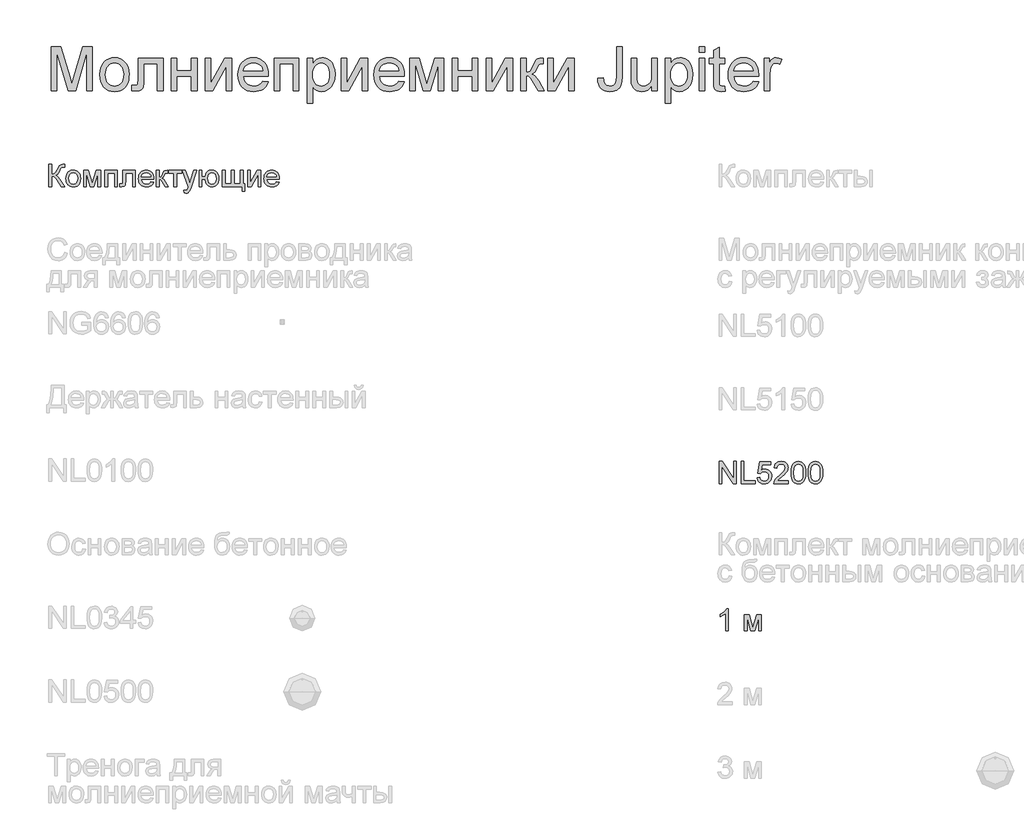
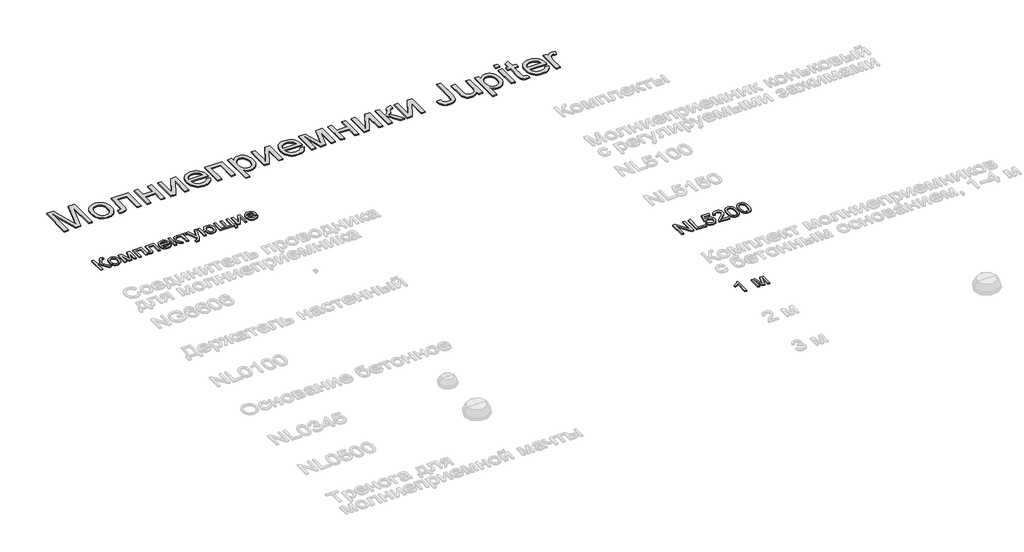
# One storey, part 61 of 124: 4 proxies.
"""IFC4 building model written with IfcOpenShell, lengths in millimetres."""

from ifc_helpers import new_model, si_unit, origin, origin_with_axes, place, context, project, spatial, polyline, outline, extrude, element, save

model = new_model("IFC4")

# Units and contexts
model_context = context("Model", 3, world=origin())
ifc_project = project(units=[si_unit("LENGTHUNIT", "METRE", prefix="MILLI")], contexts=[model_context])

# Site, building, storey
site = spatial("IfcSite", under=ifc_project)
building = spatial("IfcBuilding", under=site)
storey = spatial("IfcBuildingStorey", under=building, Name="Этаж 01", Elevation=0.0)

# Proxies
placement = place(None, origin())
element("IfcBuildingElementProxy", 1, Name="600 мм Arial", ObjectType="600 мм Arial", at=placement, inside=storey, context=model_context, shape_type="SweptSolid", body=[
    extrude(outline(polyline([(1332.7842945, -48774.498362), (1332.7842945, -48171.7605011), (1462.4259096, -48171.7605011), (1585.7399543, -48596.5906291), (1610.6087772, -48685.3237664), (1637.5377393, -48589.2329892), (1758.7916449, -48171.7605011), (1888.43326, -48171.7605011), (1888.43326, -48774.498362), (1813.0910274, -48774.498362), (1813.0910274, -48247.1027337), (1661.6707981, -48774.498362), (1559.5467563, -48774.498362), (1408.1265271, -48247.1027337), (1408.1265271, -48774.498362), (1332.7842945, -48774.498362)])), origin_with_axes(), (0.0, 0.0, 1.0), 20.0),
    extrude(outline(polyline([(1992.0288298, -48553.1805537), (1996.1031229, -48495.8553418), (2008.3260022, -48446.4579869), (2028.6974677, -48404.988489), (2057.2175194, -48371.4468481), (2085.9307091, -48350.0085248), (2117.623743, -48334.6954368), (2152.296621, -48325.5075839), (2189.9493432, -48322.4449663), (2231.5154102, -48326.1743701), (2269.0991545, -48337.3625812), (2302.7005762, -48356.0095999), (2332.3196754, -48382.1154259), (2356.494121, -48414.7971427), (2373.7615821, -48453.1718333), (2384.1220588, -48497.2394978), (2387.575551, -48547.0001362), (2386.0488408, -48587.3291999), (2381.4687099, -48623.114921), (2373.8351585, -48654.3572994), (2363.1481866, -48681.0563352), (2349.5411513, -48704.1179378), (2333.1474098, -48724.4480166), (2313.9669623, -48742.0465715), (2291.9998087, -48756.9136026), (2268.1012746, -48768.7272132), (2243.1266856, -48777.1655065), (2217.0760418, -48782.2284824), (2189.9493432, -48783.9161411), (2147.776271, -48780.2005329), (2109.8430388, -48769.0537085), (2076.1496465, -48750.4756677), (2046.6960943, -48724.4664107), (2022.7791661, -48691.4673957), (2005.6956459, -48651.9200812), (1995.4455338, -48605.8244672), (1992.0288298, -48553.1805537)]), holes=[polyline([(2067.3710624, -48553.0334009), (2069.5507633, -48589.5778786), (2076.0898657, -48621.2203287), (2086.9883698, -48647.9607512), (2102.2462756, -48669.7991462), (2120.8059222, -48686.7631047), (2141.6096491, -48698.8802179), (2164.6574561, -48706.1504858), (2189.9493432, -48708.5739085), (2215.1124717, -48706.1366902), (2238.0683082, -48698.8250356), (2258.8168527, -48686.6389445), (2277.3581053, -48669.578417), (2292.616011, -48647.5238914), (2303.5145151, -48620.355806), (2310.0536176, -48588.0741609), (2312.2333184, -48550.6789561), (2310.039822, -48515.2933067), (2303.4593328, -48484.4785911), (2292.4918509, -48458.2348093), (2277.1373761, -48436.5619612), (2258.5271456, -48419.5980027), (2237.7923967, -48407.4808895), (2214.9331292, -48400.2106216), (2189.9493432, -48397.7871989), (2164.6574561, -48400.2014245), (2141.6096491, -48407.4441013), (2120.8059222, -48419.5152293), (2102.2462756, -48436.4148084), (2086.9883698, -48458.188824), (2076.0898657, -48484.8832613), (2069.5507633, -48516.4981203), (2067.3710624, -48553.0334009)])]), origin_with_axes(), (0.0, 0.0, 1.0), 20.0),
    extrude(outline(polyline([(2510.006679, -48331.8627454), (2849.0467258, -48331.8627454), (2849.0467258, -48774.0569036), (2773.7044932, -48774.0569036), (2773.7044932, -48407.204978), (2585.3489116, -48407.204978), (2585.3489116, -48618.3692432), (2584.0797188, -48679.6583836), (2580.2721401, -48715.7843956), (2570.7623905, -48737.8389212), (2552.3866849, -48756.9136026), (2524.5012296, -48770.1021722), (2486.4622313, -48774.498362), (2425.2466673, -48770.6723893), (2425.2466673, -48699.1561294), (2458.9446581, -48699.1561294), (2479.3805029, -48697.9973011), (2493.0105309, -48694.5208163), (2501.526999, -48688.5243397), (2506.6221647, -48679.8055364), (2510.006679, -48614.1018121), (2510.006679, -48331.8627454)])), origin_with_axes(), (0.0, 0.0, 1.0), 20.0),
    extrude(outline(polyline([(2962.0600747, -48331.8627454), (3037.4023073, -48331.8627454), (3037.4023073, -48501.3827688), (3235.1756679, -48501.3827688), (3235.1756679, -48331.8627454), (3310.5179005, -48331.8627454), (3310.5179005, -48774.498362), (3235.1756679, -48774.498362), (3235.1756679, -48576.7250014), (3037.4023073, -48576.7250014), (3037.4023073, -48774.498362), (2962.0600747, -48774.498362), (2962.0600747, -48331.8627454)])), origin_with_axes(), (0.0, 0.0, 1.0), 20.0),
    extrude(outline(polyline([(3423.5312495, -48331.8627454), (3498.8734821, -48331.8627454), (3498.8734821, -48669.4312642), (3683.991702, -48331.8627454), (3781.4068544, -48331.8627454), (3781.4068544, -48774.498362), (3706.0646217, -48774.498362), (3706.0646217, -48438.9899824), (3522.1236242, -48774.498362), (3423.5312495, -48774.498362), (3423.5312495, -48331.8627454)])), origin_with_axes(), (0.0, 0.0, 1.0), 20.0),
    extrude(outline(polyline([(4204.323996, -48642.6494549), (4278.1947006, -48652.067234), (4266.8685337, -48681.6541435), (4251.5784383, -48707.7277799), (4232.3244144, -48730.2881432), (4209.106462, -48749.3352335), (4182.1637043, -48764.4643806), (4151.7352648, -48775.2709142), (4117.8211434, -48781.7548344), (4080.42134, -48783.9161411), (4033.6727355, -48780.1867374), (3992.0192966, -48768.9985262), (3955.4610233, -48750.3515075), (3923.9979157, -48724.2456815), (3898.6968315, -48691.4076149), (3880.6246285, -48652.5638747), (3869.7813066, -48607.714461), (3866.166866, -48556.8593737), (3869.8180948, -48504.2798395), (3880.7717813, -48457.9359052), (3899.0279253, -48417.8275706), (3924.5865269, -48383.9548359), (3955.9668611, -48357.044268), (3991.6882028, -48337.8224337), (4031.7505521, -48326.2893332), (4076.1539089, -48322.4449663), (4119.1271245, -48326.2801361), (4157.9892587, -48337.7856455), (4192.7403117, -48356.9614945), (4223.3802834, -48383.8076831), (4248.3916605, -48417.6068414), (4266.2569299, -48457.6415996), (4276.9760915, -48503.9119575), (4280.5491454, -48556.4179153), (4280.107687, -48576.7250014), (3941.5090987, -48576.7250014), (3945.8730988, -48606.7901575), (3954.5505154, -48633.1213113), (3967.5413483, -48655.7184628), (3984.8455977, -48674.5816121), (4005.5067702, -48689.4532418), (4028.5683728, -48700.0758344), (4054.0304054, -48706.4493899), (4081.892868, -48708.5739085), (4121.9920055, -48704.6375711), (4155.7635727, -48692.8285591), (4183.2075695, -48672.4111083), (4204.323996, -48642.6494549)]), holes=[polyline([(3941.5090987, -48501.3827688), (4205.2069128, -48501.3827688), (4195.0165815, -48461.5779369), (4186.251793, -48445.924558), (4175.0405892, -48433.1038705), (4154.4943798, -48417.6528267), (4131.115479, -48406.6163668), (4104.9038868, -48399.9944909), (4075.8596033, -48397.7871989), (4049.3675011, -48399.548434), (4025.0734939, -48404.8321391), (4002.9775815, -48413.6383144), (3983.0797641, -48425.9669598), (3966.3825201, -48441.2478581), (3953.8883278, -48458.9107924), (3945.5971873, -48478.9557627), (3941.5090987, -48501.3827688)])]), origin_with_axes(), (0.0, 0.0, 1.0), 20.0),
    extrude(outline(polyline([(4355.891378, -48331.8627454), (4694.9314248, -48331.8627454), (4694.9314248, -48774.498362), (4619.5891922, -48774.498362), (4619.5891922, -48407.204978), (4431.2336106, -48407.204978), (4431.2336106, -48774.498362), (4355.891378, -48774.498362), (4355.891378, -48331.8627454)])), origin_with_axes(), (0.0, 0.0, 1.0), 20.0),
    extrude(outline(polyline([(4807.9447737, -48944.0183854), (4807.9447737, -48331.8627454), (4883.2870063, -48331.8627454), (4883.2870063, -48405.73345), (4907.8615236, -48369.2947384), (4935.3790968, -48343.2670873), (4967.4584068, -48327.6504966), (5005.7181343, -48322.4449663), (5031.9941058, -48324.2659822), (5056.6697906, -48329.7290298), (5079.7451888, -48338.8341092), (5101.2203003, -48351.5812203), (5120.6260755, -48367.6392694), (5137.493465, -48386.6771627), (5151.8224687, -48408.6949001), (5163.6130866, -48433.6924817), (5179.3952242, -48489.2058747), (5184.6559368, -48549.7960393), (5178.7146425, -48614.2305708), (5171.2880248, -48643.8956552), (5160.8907599, -48671.8592853), (5147.6654021, -48697.3902958), (5131.7545059, -48719.7575211), (5113.158071, -48738.9609613), (5091.8760976, -48755.0006163), (5068.9524508, -48767.6511584), (5045.4309957, -48776.6872599), (5021.3117324, -48782.1089208), (4996.5946608, -48783.9161411), (4961.958571, -48779.0784928), (4931.0380893, -48764.5655481), (4904.5689797, -48742.6581753), (4883.2870063, -48715.6372428), (4883.2870063, -48944.0183854), (4807.9447737, -48944.0183854)]), holes=[polyline([(4883.2870063, -48556.7122209), (4885.3241529, -48593.0221738), (4891.4355925, -48624.2553552), (4901.6213252, -48650.411765), (4915.8813511, -48671.4914034), (4933.0476447, -48687.7149993), (4951.9521807, -48699.3032822), (4972.5949592, -48706.2562519), (4994.97598, -48708.5739085), (5017.6788977, -48706.1734784), (5038.6987552, -48698.9721884), (5058.0355525, -48686.9700383), (5075.6892898, -48670.1670282), (5090.3999711, -48648.3240347), (5100.9076006, -48621.2019346), (5107.2121783, -48588.8007279), (5109.3137041, -48551.1204145), (5107.262762, -48515.1231613), (5101.1099357, -48483.9451622), (5090.855225, -48457.5864173), (5076.4986302, -48436.0469264), (5059.2909499, -48419.3082957), (5040.4829829, -48407.3521308), (5020.0747292, -48400.1784319), (4998.0661888, -48397.7871989), (4976.1266263, -48400.3301832), (4955.4838479, -48407.9591361), (4936.1378534, -48420.6740576), (4918.0886431, -48438.4749476), (4902.862927, -48461.1226829), (4891.9874155, -48488.3781403), (4885.4621086, -48520.2413196), (4883.2870063, -48556.7122209)])]), origin_with_axes(), (0.0, 0.0, 1.0), 20.0),
    extrude(outline(polyline([(5269.4159484, -48331.8627454), (5344.7581811, -48331.8627454), (5344.7581811, -48669.4312642), (5529.876401, -48331.8627454), (5627.2915534, -48331.8627454), (5627.2915534, -48774.498362), (5551.9493207, -48774.498362), (5551.9493207, -48438.9899824), (5368.0083232, -48774.498362), (5269.4159484, -48774.498362), (5269.4159484, -48331.8627454)])), origin_with_axes(), (0.0, 0.0, 1.0), 20.0),
    extrude(outline(polyline([(6050.208695, -48642.6494549), (6124.0793996, -48652.067234), (6112.7532327, -48681.6541435), (6097.4631373, -48707.7277799), (6078.2091134, -48730.2881432), (6054.9911609, -48749.3352335), (6028.0484033, -48764.4643806), (5997.6199638, -48775.2709142), (5963.7058424, -48781.7548344), (5926.306039, -48783.9161411), (5879.5574345, -48780.1867374), (5837.9039956, -48768.9985262), (5801.3457223, -48750.3515075), (5769.8826147, -48724.2456815), (5744.5815305, -48691.4076149), (5726.5093275, -48652.5638747), (5715.6660056, -48607.714461), (5712.051565, -48556.8593737), (5715.7027938, -48504.2798395), (5726.6564803, -48457.9359052), (5744.9126243, -48417.8275706), (5770.4712259, -48383.9548359), (5801.8515601, -48357.044268), (5837.5729018, -48337.8224337), (5877.6352511, -48326.2893332), (5922.0386079, -48322.4449663), (5965.0118235, -48326.2801361), (6003.8739577, -48337.7856455), (6038.6250107, -48356.9614945), (6069.2649824, -48383.8076831), (6094.2763595, -48417.6068414), (6112.1416289, -48457.6415996), (6122.8607905, -48503.9119575), (6126.4338444, -48556.4179153), (6125.992386, -48576.7250014), (5787.3937977, -48576.7250014), (5791.7577978, -48606.7901575), (5800.4352144, -48633.1213113), (5813.4260473, -48655.7184628), (5830.7302967, -48674.5816121), (5851.3914692, -48689.4532418), (5874.4530718, -48700.0758344), (5899.9151044, -48706.4493899), (5927.777567, -48708.5739085), (5967.8767045, -48704.6375711), (6001.6482716, -48692.8285591), (6029.0922685, -48672.4111083), (6050.208695, -48642.6494549)]), holes=[polyline([(5787.3937977, -48501.3827688), (6051.0916118, -48501.3827688), (6040.9012805, -48461.5779369), (6032.136492, -48445.924558), (6020.9252882, -48433.1038705), (6000.3790788, -48417.6528267), (5977.000178, -48406.6163668), (5950.7885858, -48399.9944909), (5921.7443023, -48397.7871989), (5895.2522001, -48399.548434), (5870.9581929, -48404.8321391), (5848.8622805, -48413.6383144), (5828.9644631, -48425.9669598), (5812.2672191, -48441.2478581), (5799.7730268, -48458.9107924), (5791.4818863, -48478.9557627), (5787.3937977, -48501.3827688)])]), origin_with_axes(), (0.0, 0.0, 1.0), 20.0),
    extrude(outline(polyline([(6201.776077, -48331.8627454), (6331.4176921, -48331.8627454), (6431.334442, -48686.2066832), (6539.0502902, -48331.8627454), (6663.2472518, -48331.8627454), (6663.2472518, -48774.498362), (6587.9050192, -48774.498362), (6587.9050192, -48418.0942851), (6479.6005598, -48774.498362), (6380.7138795, -48774.498362), (6277.1183096, -48401.0245605), (6277.1183096, -48774.498362), (6201.776077, -48774.498362), (6201.776077, -48331.8627454)])), origin_with_axes(), (0.0, 0.0, 1.0), 20.0),
    extrude(outline(polyline([(6776.2606007, -48331.8627454), (6851.6028333, -48331.8627454), (6851.6028333, -48501.3827688), (7049.3761939, -48501.3827688), (7049.3761939, -48331.8627454), (7124.7184265, -48331.8627454), (7124.7184265, -48774.498362), (7049.3761939, -48774.498362), (7049.3761939, -48576.7250014), (6851.6028333, -48576.7250014), (6851.6028333, -48774.498362), (6776.2606007, -48774.498362), (6776.2606007, -48331.8627454)])), origin_with_axes(), (0.0, 0.0, 1.0), 20.0),
    extrude(outline(polyline([(7237.7317754, -48331.8627454), (7313.0740081, -48331.8627454), (7313.0740081, -48669.4312642), (7498.192228, -48331.8627454), (7595.6073804, -48331.8627454), (7595.6073804, -48774.498362), (7520.2651477, -48774.498362), (7520.2651477, -48438.9899824), (7336.3241502, -48774.498362), (7237.7317754, -48774.498362), (7237.7317754, -48331.8627454)])), origin_with_axes(), (0.0, 0.0, 1.0), 20.0),
    extrude(outline(polyline([(7708.6207293, -48331.8627454), (7783.9629619, -48331.8627454), (7783.9629619, -48520.2183269), (7814.6075321, -48516.8338126), (7834.4363716, -48506.6802695), (7851.9843428, -48480.1927659), (7875.7863079, -48427.8063697), (7894.9713539, -48384.9665114), (7910.1464862, -48359.7482006), (7924.309943, -48346.0078081), (7940.4599626, -48337.6017045), (7962.8087938, -48333.2974852), (7995.5686855, -48331.8627454), (8009.9896597, -48331.8627454), (8009.9896597, -48407.6464364), (7989.6825736, -48407.204978), (7966.1381259, -48409.1915408), (7952.8943741, -48415.1512291), (7942.1522198, -48431.7427071), (7926.9954816, -48464.7417221), (7911.0845853, -48497.7959193), (7896.6084288, -48518.378917), (7879.0788517, -48532.1193095), (7854.0076938, -48544.6456914), (7877.8832353, -48555.2498899), (7901.5380475, -48573.9658864), (7924.9721306, -48600.7936809), (7948.1854845, -48635.7332734), (8028.8252179, -48774.498362), (7943.1822894, -48774.498362), (7864.1612368, -48638.6763294), (7842.8240811, -48602.5319234), (7824.4299814, -48581.2131617), (7805.8519406, -48570.7837072), (7783.9629619, -48567.3072223), (7783.9629619, -48774.498362), (7708.6207293, -48774.498362), (7708.6207293, -48331.8627454)])), origin_with_axes(), (0.0, 0.0, 1.0), 20.0),
    extrude(outline(polyline([(8075.9141133, -48331.8627454), (8151.2563459, -48331.8627454), (8151.2563459, -48669.4312642), (8336.3745658, -48331.8627454), (8433.7897182, -48331.8627454), (8433.7897182, -48774.498362), (8358.4474855, -48774.498362), (8358.4474855, -48438.9899824), (8174.506488, -48774.498362), (8075.9141133, -48774.498362), (8075.9141133, -48331.8627454)])), origin_with_axes(), (0.0, 0.0, 1.0), 20.0),
    extrude(outline(polyline([(8753.9942068, -48605.2726442), (8829.3364394, -48595.5605595), (8831.9943868, -48625.515351), (8837.1723259, -48650.3381886), (8844.8702566, -48670.0290724), (8855.088179, -48684.5880024), (8867.6697433, -48695.0818363), (8882.4585995, -48702.5774319), (8899.4547477, -48707.0747893), (8918.6581878, -48708.5739085), (8946.4884607, -48705.171), (8970.2352435, -48694.9622746), (8988.5557669, -48678.8858315), (9000.1072615, -48657.8797695), (9006.2324968, -48627.4743226), (9008.2742418, -48583.1997245), (9008.2742418, -48171.7605011), (9083.6164744, -48171.7605011), (9083.6164744, -48581.8753493), (9079.0731318, -48648.9586311), (9073.3939535, -48676.0853298), (9065.4431039, -48698.9354002), (9055.0228464, -48718.4193504), (9041.9354444, -48735.4476882), (9026.1808979, -48750.0204137), (9007.759207, -48762.137527), (8964.8457723, -48778.4714875), (8915.1265207, -48783.9161411), (8877.9980303, -48781.1064423), (8845.486459, -48772.6773461), (8817.5918067, -48758.6288524), (8794.3140734, -48738.9609613), (8776.0671265, -48713.747249), (8763.264833, -48683.0612921), (8755.9071931, -48646.9030905), (8753.9942068, -48605.2726442)])), origin_with_axes(), (0.0, 0.0, 1.0), 20.0),
    extrude(outline(polyline([(9488.5809747, -48774.498362), (9488.5809747, -48698.4203654), (9461.3209189, -48735.8247673), (9429.5727027, -48762.5421972), (9393.3363262, -48778.5726551), (9352.6117893, -48783.9161411), (9315.9155603, -48780.1637447), (9281.757717, -48768.9065557), (9253.0997096, -48751.9839839), (9232.9029881, -48731.2354394), (9219.3097484, -48706.0355227), (9210.4621864, -48675.7588345), (9206.0476024, -48605.7141026), (9206.0476024, -48331.8627454), (9281.389835, -48331.8627454), (9281.389835, -48570.2502783), (9282.5302692, -48617.9277849), (9285.9515718, -48647.0640389), (9296.9328493, -48672.6870198), (9315.7500134, -48692.1663715), (9341.1522652, -48704.4720242), (9371.8888059, -48708.5739085), (9404.3911801, -48704.3800537), (9434.796627, -48691.7984895), (9459.867785, -48671.988044), (9476.3672925, -48646.1075457), (9485.5275542, -48610.6621154), (9488.5809747, -48562.1568744), (9488.5809747, -48331.8627454), (9563.9232073, -48331.8627454), (9563.9232073, -48774.498362), (9488.5809747, -48774.498362)])), origin_with_axes(), (0.0, 0.0, 1.0), 20.0),
    extrude(outline(polyline([(9667.5187772, -48944.0183854), (9667.5187772, -48331.8627454), (9742.8610098, -48331.8627454), (9742.8610098, -48405.73345), (9767.4355271, -48369.2947384), (9794.9531003, -48343.2670873), (9827.0324103, -48327.6504966), (9865.2921378, -48322.4449663), (9891.5681093, -48324.2659822), (9916.2437941, -48329.7290298), (9939.3191923, -48338.8341092), (9960.7943037, -48351.5812203), (9980.200079, -48367.6392694), (9997.0674685, -48386.6771627), (10011.3964722, -48408.6949001), (10023.1870901, -48433.6924817), (10038.9692277, -48489.2058747), (10044.2299402, -48549.7960393), (10038.288646, -48614.2305708), (10030.8620282, -48643.8956552), (10020.4647634, -48671.8592853), (10007.2394056, -48697.3902958), (9991.3285093, -48719.7575211), (9972.7320745, -48738.9609613), (9951.4501011, -48755.0006163), (9928.5264542, -48767.6511584), (9905.0049992, -48776.6872599), (9880.8857359, -48782.1089208), (9856.1686643, -48783.9161411), (9821.5325745, -48779.0784928), (9790.6120928, -48764.5655481), (9764.1429832, -48742.6581753), (9742.8610098, -48715.6372428), (9742.8610098, -48944.0183854), (9667.5187772, -48944.0183854)]), holes=[polyline([(9742.8610098, -48556.7122209), (9744.8981563, -48593.0221738), (9751.009596, -48624.2553552), (9761.1953287, -48650.411765), (9775.4553546, -48671.4914034), (9792.6216482, -48687.7149993), (9811.5261842, -48699.3032822), (9832.1689627, -48706.2562519), (9854.5499835, -48708.5739085), (9877.2529012, -48706.1734784), (9898.2727587, -48698.9721884), (9917.609556, -48686.9700383), (9935.2632933, -48670.1670282), (9949.9739746, -48648.3240347), (9960.481604, -48621.2019346), (9966.7861817, -48588.8007279), (9968.8877076, -48551.1204145), (9966.8367655, -48515.1231613), (9960.6839391, -48483.9451622), (9950.4292285, -48457.5864173), (9936.0726337, -48436.0469264), (9918.8649533, -48419.3082957), (9900.0569863, -48407.3521308), (9879.6487327, -48400.1784319), (9857.6401923, -48397.7871989), (9835.7006298, -48400.3301832), (9815.0578514, -48407.9591361), (9795.7118569, -48420.6740576), (9777.6626465, -48438.4749476), (9762.4369305, -48461.1226829), (9751.561419, -48488.3781403), (9745.0361121, -48520.2413196), (9742.8610098, -48556.7122209)])]), origin_with_axes(), (0.0, 0.0, 1.0), 20.0),
    extrude(outline(polyline([(10128.9899519, -48247.1027337), (10128.9899519, -48171.7605011), (10204.3321845, -48171.7605011), (10204.3321845, -48247.1027337), (10128.9899519, -48247.1027337)])), origin_with_axes(), (0.0, 0.0, 1.0), 20.0),
    extrude(outline(polyline([(10128.9899519, -48774.498362), (10128.9899519, -48331.8627454), (10204.3321845, -48331.8627454), (10204.3321845, -48774.498362), (10128.9899519, -48774.498362)])), origin_with_axes(), (0.0, 0.0, 1.0), 20.0),
    extrude(outline(polyline([(10477.4477778, -48711.6641172), (10486.8655568, -48776.705654), (10430.5060352, -48783.9161411), (10394.3432351, -48780.7891441), (10367.3774848, -48771.4081532), (10348.3211975, -48756.9503908), (10335.886786, -48738.5930793), (10329.0441809, -48707.0655923), (10326.7633125, -48653.0973036), (10326.7633125, -48407.204978), (10270.2566381, -48407.204978), (10270.2566381, -48331.8627454), (10326.7633125, -48331.8627454), (10326.7633125, -48224.29405), (10402.1055452, -48180.0010578), (10402.1055452, -48331.8627454), (10477.4477778, -48331.8627454), (10477.4477778, -48407.204978), (10402.1055452, -48407.204978), (10402.1055452, -48650.8900116), (10406.0786707, -48689.7383503), (10418.9545405, -48703.4971369), (10429.8254535, -48707.3047156), (10444.6327038, -48708.5739085), (10477.4477778, -48711.6641172)])), origin_with_axes(), (0.0, 0.0, 1.0), 20.0),
    extrude(outline(polyline([(10862.6938031, -48642.6494549), (10936.5645077, -48652.067234), (10925.2383408, -48681.6541435), (10909.9482454, -48707.7277799), (10890.6942215, -48730.2881432), (10867.4762691, -48749.3352335), (10840.5335114, -48764.4643806), (10810.1050719, -48775.2709142), (10776.1909505, -48781.7548344), (10738.7911471, -48783.9161411), (10692.0425426, -48780.1867374), (10650.3891037, -48768.9985262), (10613.8308304, -48750.3515075), (10582.3677228, -48724.2456815), (10557.0666386, -48691.4076149), (10538.9944356, -48652.5638747), (10528.1511138, -48607.714461), (10524.5366732, -48556.8593737), (10528.187902, -48504.2798395), (10539.1415884, -48457.9359052), (10557.3977324, -48417.8275706), (10582.956334, -48383.9548359), (10614.3366682, -48357.044268), (10650.0580099, -48337.8224337), (10690.1203592, -48326.2893332), (10734.523716, -48322.4449663), (10777.4969316, -48326.2801361), (10816.3590658, -48337.7856455), (10851.1101188, -48356.9614945), (10881.7500905, -48383.8076831), (10906.7614676, -48417.6068414), (10924.626737, -48457.6415996), (10935.3458986, -48503.9119575), (10938.9189525, -48556.4179153), (10938.4774941, -48576.7250014), (10599.8789058, -48576.7250014), (10604.2429059, -48606.7901575), (10612.9203225, -48633.1213113), (10625.9111554, -48655.7184628), (10643.2154048, -48674.5816121), (10663.8765773, -48689.4532418), (10686.9381799, -48700.0758344), (10712.4002125, -48706.4493899), (10740.2626751, -48708.5739085), (10780.3618126, -48704.6375711), (10814.1333798, -48692.8285591), (10841.5773766, -48672.4111083), (10862.6938031, -48642.6494549)]), holes=[polyline([(10599.8789058, -48501.3827688), (10863.5767199, -48501.3827688), (10853.3863886, -48461.5779369), (10844.6216001, -48445.924558), (10833.4103963, -48433.1038705), (10812.8641869, -48417.6528267), (10789.4852861, -48406.6163668), (10763.2736939, -48399.9944909), (10734.2294104, -48397.7871989), (10707.7373082, -48399.548434), (10683.443301, -48404.8321391), (10661.3473886, -48413.6383144), (10641.4495712, -48425.9669598), (10624.7523272, -48441.2478581), (10612.2581349, -48458.9107924), (10603.9669944, -48478.9557627), (10599.8789058, -48501.3827688)])]), origin_with_axes(), (0.0, 0.0, 1.0), 20.0),
    extrude(outline(polyline([(11014.2611851, -48774.498362), (11014.2611851, -48331.8627454), (11080.1856387, -48331.8627454), (11080.1856387, -48397.3457405), (11104.5394267, -48359.3803186), (11126.9802285, -48337.0130933), (11149.4946066, -48326.0869981), (11174.0691238, -48322.4449663), (11211.5930873, -48328.2575019), (11249.705662, -48345.6951084), (11224.5425336, -48413.2382427), (11198.0550299, -48401.6499599), (11171.5675263, -48397.7871989), (11149.0715423, -48401.5028071), (11128.9667912, -48412.6496315), (11112.7248011, -48430.3815437), (11101.8171, -48453.852415), (11092.6568383, -48495.9381153), (11089.6034177, -48541.8497883), (11089.6034177, -48774.498362), (11014.2611851, -48774.498362)])), origin_with_axes(), (0.0, 0.0, 1.0), 20.0),
])
element("IfcBuildingElementProxy", 2, Name="300", ObjectType="300", at=placement, inside=storey, context=model_context, shape_type="SweptSolid", body=[
    extrude(outline(polyline([(1299.8220677, -49773.1294316), (1337.493184, -49773.1294316), (1337.493184, -49904.9783386), (1362.9966033, -49902.4859381), (1379.6156724, -49895.0087366), (1393.0525623, -49877.4147801), (1409.0094439, -49844.572115), (1429.7947766, -49802.4496266), (1439.819561, -49791.0360877), (1453.3392243, -49781.5907174), (1469.3880763, -49775.244753), (1487.0004268, -49773.1294316), (1511.7220969, -49773.5708899), (1511.7220969, -49811.2420063), (1503.4079638, -49811.0212771), (1495.0938307, -49810.8005479), (1477.8401652, -49813.0630221), (1465.6632711, -49819.8504449), (1455.1786343, -49834.1058723), (1443.2960458, -49858.6252072), (1428.7187218, -49889.1594128), (1416.6246012, -49905.8612554), (1390.6153441, -49921.459452), (1405.2064637, -49927.6674607), (1419.6964158, -49938.4923884), (1448.3728173, -49973.9930009), (1511.7220969, -50074.498362), (1468.0177159, -50074.498362), (1414.4540974, -49989.5911975), (1393.7699322, -49962.3587328), (1376.7461929, -49945.2614171), (1359.3361775, -49936.2391112), (1337.493184, -49933.2316759), (1337.493184, -50074.498362), (1299.8220677, -50074.498362), (1299.8220677, -49773.1294316)])), origin_with_axes(), (0.0, 0.0, 1.0), 20.0),
    extrude(outline(polyline([(1530.5576551, -49963.8394579), (1532.5948016, -49935.1768519), (1538.7062413, -49910.4781745), (1548.891974, -49889.7434255), (1563.1519998, -49872.972605), (1577.5085947, -49862.2534434), (1593.3551116, -49854.5968994), (1610.6915507, -49850.002973), (1629.5179118, -49848.4716642), (1650.3009452, -49850.336366), (1669.0928174, -49855.9304716), (1685.8935283, -49865.2539809), (1700.7030778, -49878.306894), (1712.7903006, -49894.6477523), (1721.4240312, -49913.8350977), (1726.6042696, -49935.8689299), (1728.3310157, -49960.7492491), (1725.2775951, -49998.8066415), (1716.1173334, -50027.7773486), (1701.1169451, -50049.4731893), (1680.5431445, -50065.7059823), (1656.106583, -50075.8319342), (1629.5179118, -50079.2072515), (1608.4313757, -50077.3494475), (1589.4647595, -50071.7760352), (1572.6180634, -50062.4870149), (1557.8912873, -50049.4823863), (1545.9328232, -50032.9828788), (1537.3910631, -50013.2092216), (1532.2660071, -49990.1614146), (1530.5576551, -49963.8394579)]), holes=[polyline([(1568.2287714, -49963.7658815), (1572.588173, -49997.8593454), (1585.6663779, -50022.1487541), (1605.3480647, -50036.6892899), (1629.5179118, -50041.5361352), (1653.5773943, -50036.6616988), (1673.2222928, -50022.0383895), (1686.3004977, -49997.427084), (1690.6598994, -49962.5886591), (1686.2729066, -49929.4884766), (1673.1119282, -49905.5301616), (1653.4394385, -49890.9896258), (1629.5179118, -49886.1427805), (1605.3480647, -49890.9712317), (1585.6663779, -49905.4565852), (1572.588173, -49929.6908117), (1568.2287714, -49963.7658815)])]), origin_with_axes(), (0.0, 0.0, 1.0), 20.0),
    extrude(outline(polyline([(1770.7110215, -49853.1805537), (1835.5318291, -49853.1805537), (1885.490204, -50030.3525226), (1939.3481281, -49853.1805537), (2001.4466089, -49853.1805537), (2001.4466089, -50074.498362), (1963.7754926, -50074.498362), (1963.7754926, -49896.2963235), (1909.6232629, -50074.498362), (1860.1799227, -50074.498362), (1808.3821378, -49887.7614613), (1808.3821378, -50074.498362), (1770.7110215, -50074.498362), (1770.7110215, -49853.1805537)])), origin_with_axes(), (0.0, 0.0, 1.0), 20.0),
    extrude(outline(polyline([(2057.9532834, -49853.1805537), (2227.4733067, -49853.1805537), (2227.4733067, -50074.498362), (2189.8021904, -50074.498362), (2189.8021904, -49890.85167), (2095.6243997, -49890.85167), (2095.6243997, -50074.498362), (2057.9532834, -50074.498362), (2057.9532834, -49853.1805537)])), origin_with_axes(), (0.0, 0.0, 1.0), 20.0),
    extrude(outline(polyline([(2302.8155393, -49853.1805537), (2472.3355627, -49853.1805537), (2472.3355627, -50074.2776328), (2434.6644464, -50074.2776328), (2434.6644464, -49890.85167), (2340.4866556, -49890.85167), (2340.4866556, -49996.4338026), (2337.9482699, -50045.1413788), (2333.1933951, -50056.1686416), (2324.0055423, -50065.7059823), (2310.0628146, -50072.3002671), (2291.0433155, -50074.498362), (2260.4355335, -50072.5853756), (2260.4355335, -50036.8272457), (2277.2845289, -50036.8272457), (2294.3174653, -50034.5095891), (2301.1232822, -50027.1519492), (2302.8155393, -49994.3000871), (2302.8155393, -49853.1805537)])), origin_with_axes(), (0.0, 0.0, 1.0), 20.0),
    extrude(outline(polyline([(2683.7941335, -50008.5739085), (2720.7294859, -50013.282798), (2707.4213547, -50041.1130709), (2686.1853665, -50061.9167978), (2657.4997679, -50074.8846381), (2621.8428056, -50079.2072515), (2598.4685033, -50077.3425497), (2577.6417838, -50071.7484441), (2559.3626472, -50062.4249348), (2543.6310934, -50049.3720217), (2530.9805513, -50032.9529884), (2521.9444498, -50013.5311184), (2516.5227889, -49991.1064115), (2514.7155686, -49965.6788678), (2516.541183, -49939.3891007), (2522.0180262, -49916.2171336), (2531.1460982, -49896.1629663), (2543.925399, -49879.226599), (2559.6155661, -49865.771315), (2577.4762369, -49856.1603979), (2597.5074116, -49850.3938476), (2619.70909, -49848.4716642), (2641.1956978, -49850.3892491), (2660.6267649, -49856.1420038), (2678.0022914, -49865.7299283), (2693.3222772, -49879.1530226), (2705.8279658, -49896.0526017), (2714.7606005, -49916.0699808), (2720.1201813, -49939.2051598), (2721.9067082, -49965.4581386), (2721.6859791, -49975.6116817), (2552.3866849, -49975.6116817), (2558.9073932, -50003.8098366), (2574.0549344, -50024.5399871), (2595.916322, -50037.2870982), (2622.5785696, -50041.5361352), (2642.6281383, -50039.5679666), (2659.5139219, -50033.6634605), (2673.2359203, -50023.4547352), (2683.7941335, -50008.5739085)]), holes=[polyline([(2552.3866849, -49937.9405654), (2684.2355919, -49937.9405654), (2679.1404263, -49918.0381495), (2669.1524301, -49903.8011162), (2647.189875, -49890.5573644), (2619.5619372, -49886.1427805), (2594.1688825, -49889.6652506), (2573.1720176, -49900.2326609), (2558.5762994, -49916.7045772), (2552.3866849, -49937.9405654)])]), origin_with_axes(), (0.0, 0.0, 1.0), 20.0),
    extrude(outline(polyline([(2759.5778246, -49853.1805537), (2797.2489409, -49853.1805537), (2797.2489409, -49947.3583445), (2812.571226, -49945.6660873), (2822.4856457, -49940.5893158), (2831.2596313, -49927.3455639), (2843.1606139, -49901.1523659), (2860.340703, -49867.1232813), (2875.4974412, -49856.0500333), (2903.0518027, -49853.1805537), (2910.2622898, -49853.1805537), (2910.2622898, -49891.0723992), (2900.1087467, -49890.85167), (2881.714647, -49894.8247956), (2868.7652007, -49919.620042), (2853.5716743, -49946.4386395), (2832.2713068, -49959.5720267), (2844.2090775, -49964.874126), (2856.0364837, -49974.2321242), (2879.3602022, -50005.1158177), (2919.6800689, -50074.498362), (2876.8586046, -50074.498362), (2837.3480783, -50006.5873457), (2817.4824506, -49977.8557619), (2808.1934302, -49972.6410346), (2797.2489409, -49970.9027922), (2797.2489409, -50074.498362), (2759.5778246, -50074.498362), (2759.5778246, -49853.1805537)])), origin_with_axes(), (0.0, 0.0, 1.0), 20.0),
    extrude(outline(polyline([(2924.3889584, -49853.1805537), (3103.3267608, -49853.1805537), (3103.3267608, -49890.85167), (3032.6934178, -49890.85167), (3032.6934178, -50074.498362), (2995.0223015, -50074.498362), (2995.0223015, -49890.85167), (2924.3889584, -49890.85167), (2924.3889584, -49853.1805537)])), origin_with_axes(), (0.0, 0.0, 1.0), 20.0),
    extrude(outline(polyline([(3136.2889876, -50159.2583737), (3131.5800981, -50122.985209), (3150.7099618, -50126.2961469), (3168.5890268, -50122.1390804), (3179.5519102, -50110.5507975), (3189.8526061, -50082.8124951), (3192.7956621, -50073.6890216), (3112.7445399, -49853.1805537), (3152.4757954, -49853.1805537), (3194.9293776, -49976.0531401), (3209.7182339, -50025.2021746), (3224.5070901, -49981.7920992), (3268.1378947, -49853.1805537), (3307.5748446, -49853.1805537), (3230.5403548, -50079.7958627), (3210.5275742, -50128.9448973), (3200.2820607, -50144.6350644), (3188.6753837, -50155.5059773), (3175.1925086, -50161.8519418), (3159.3184005, -50163.9672632), (3136.2889876, -50159.2583737)])), origin_with_axes(), (0.0, 0.0, 1.0), 20.0),
    extrude(outline(polyline([(3338.7712378, -49853.1805537), (3376.4423541, -49853.1805537), (3376.4423541, -49937.9405654), (3418.8223599, -49937.9405654), (3428.5988239, -49899.5336851), (3437.1221899, -49884.1930059), (3448.0689785, -49871.4275007), (3461.1310886, -49861.3843222), (3476.000419, -49854.2106233), (3511.1607407, -49848.4716642), (3540.710862, -49851.8469815), (3563.2896194, -49861.9729334), (3580.7088319, -49878.0217854), (3594.7803182, -49899.1658031), (3604.0785356, -49926.9776819), (3607.1779414, -49963.0301175), (3605.5753555, -49989.8855031), (3600.7675977, -50013.282798), (3592.754668, -50033.2220021), (3581.5365664, -50049.7031155), (3567.5731454, -50062.611175), (3551.3242575, -50071.8312175), (3532.7899028, -50077.363243), (3511.9700811, -50079.2072515), (3492.5666051, -50077.4782062), (3475.1910786, -50072.29107), (3459.8435016, -50063.6458431), (3446.5238741, -50051.5425255), (3435.56329, -50036.4225755), (3427.2928429, -50018.7274515), (3418.8223599, -49975.6116817), (3376.4423541, -49975.6116817), (3376.4423541, -50074.498362), (3338.7712378, -50074.498362), (3338.7712378, -49853.1805537)]), holes=[polyline([(3513.5887619, -49886.1427805), (3489.5752646, -49891.0172169), (3471.5398498, -49905.6405262), (3460.2550696, -49929.0562152), (3456.4934762, -49960.3077907), (3460.2826608, -49996.7189112), (3471.6502144, -50021.9280249), (3489.3637325, -50036.6341076), (3512.1908103, -50041.5361352), (3535.0822674, -50037.0019896), (3553.4303819, -50023.3995529), (3565.4877143, -49999.6987553), (3569.5068251, -49964.8695274), (3566.0303403, -49930.4265756), (3555.6008857, -49905.8244672), (3538.144885, -49891.0632022), (3513.5887619, -49886.1427805)])]), origin_with_axes(), (0.0, 0.0, 1.0), 20.0),
    extrude(outline(polyline([(3654.2668368, -49853.1805537), (3691.9379531, -49853.1805537), (3691.9379531, -50036.8272457), (3776.6979648, -50036.8272457), (3776.6979648, -49853.1805537), (3814.3690811, -49853.1805537), (3814.3690811, -50036.8272457), (3899.1290928, -50036.8272457), (3899.1290928, -49853.1805537), (3936.8002091, -49853.1805537), (3936.8002091, -50036.8272457), (3960.3446568, -50036.8272457), (3960.3446568, -50135.713926), (3922.6735405, -50135.713926), (3922.6735405, -50074.498362), (3654.2668368, -50074.498362), (3654.2668368, -49853.1805537)])), origin_with_axes(), (0.0, 0.0, 1.0), 20.0),
    extrude(outline(polyline([(3998.0157731, -49853.1805537), (4035.6868894, -49853.1805537), (4035.6868894, -50021.9648131), (4128.2459994, -49853.1805537), (4176.9535756, -49853.1805537), (4176.9535756, -50074.498362), (4139.2824593, -50074.498362), (4139.2824593, -49906.7441722), (4047.3119605, -50074.498362), (3998.0157731, -50074.498362), (3998.0157731, -49853.1805537)])), origin_with_axes(), (0.0, 0.0, 1.0), 20.0),
    extrude(outline(polyline([(4388.4121464, -50008.5739085), (4425.3474987, -50013.282798), (4412.0393675, -50041.1130709), (4390.8033794, -50061.9167978), (4362.1177808, -50074.8846381), (4326.4608184, -50079.2072515), (4303.0865161, -50077.3425497), (4282.2597967, -50071.7484441), (4263.9806601, -50062.4249348), (4248.2491062, -50049.3720217), (4235.5985641, -50032.9529884), (4226.5624626, -50013.5311184), (4221.1408017, -49991.1064115), (4219.3335814, -49965.6788678), (4221.1591958, -49939.3891007), (4226.636039, -49916.2171336), (4235.764111, -49896.1629663), (4248.5434118, -49879.226599), (4264.2335789, -49865.771315), (4282.0942498, -49856.1603979), (4302.1254244, -49850.3938476), (4324.3271028, -49848.4716642), (4345.8137106, -49850.3892491), (4365.2447778, -49856.1420038), (4382.6203042, -49865.7299283), (4397.9402901, -49879.1530226), (4410.4459786, -49896.0526017), (4419.3786133, -49916.0699808), (4424.7381942, -49939.2051598), (4426.5247211, -49965.4581386), (4426.3039919, -49975.6116817), (4257.0046977, -49975.6116817), (4263.5254061, -50003.8098366), (4278.6729472, -50024.5399871), (4300.5343348, -50037.2870982), (4327.1965824, -50041.5361352), (4347.2461511, -50039.5679666), (4364.1319347, -50033.6634605), (4377.8539331, -50023.4547352), (4388.4121464, -50008.5739085)]), holes=[polyline([(4257.0046977, -49937.9405654), (4388.8536048, -49937.9405654), (4383.7584392, -49918.0381495), (4373.770443, -49903.8011162), (4351.8078879, -49890.5573644), (4324.17995, -49886.1427805), (4298.7868953, -49889.6652506), (4277.7900305, -49900.2326609), (4263.1943123, -49916.7045772), (4257.0046977, -49937.9405654)])]), origin_with_axes(), (0.0, 0.0, 1.0), 20.0),
])
element("IfcBuildingElementProxy", 3, Name="300", ObjectType="300", at=placement, inside=storey, context=model_context, shape_type="SweptSolid", body=[
    extrude(outline(polyline([(10399.8220677, -54107.4605888), (10399.8220677, -53806.0916583), (10440.1419344, -53806.0916583), (10597.5954283, -54044.8470732), (10597.5954283, -53806.0916583), (10635.2665446, -53806.0916583), (10635.2665446, -54107.4605888), (10594.9466779, -54107.4605888), (10437.493184, -53868.6315975), (10437.493184, -54107.4605888), (10399.8220677, -54107.4605888)])), origin_with_axes(), (0.0, 0.0, 1.0), 20.0),
    extrude(outline(polyline([(10701.1909981, -54107.4605888), (10701.1909981, -53806.0916583), (10738.8621144, -53806.0916583), (10738.8621144, -54069.7894725), (10889.5465797, -54069.7894725), (10889.5465797, -54107.4605888), (10701.1909981, -54107.4605888)])), origin_with_axes(), (0.0, 0.0, 1.0), 20.0),
    extrude(outline(polyline([(10917.7999169, -54027.4094666), (10955.4710332, -54022.7005771), (10962.3872147, -54045.3161227), (10974.4537442, -54061.5121276), (10991.6154392, -54071.2518034), (11013.8171176, -54074.498362), (11040.8196561, -54069.9826105), (11061.0531658, -54056.435356), (11073.6899124, -54035.4200971), (11077.9021612, -54008.5003321), (11073.9566268, -53983.1532626), (11062.1200236, -53963.7658815), (11042.3003811, -53951.4602287), (11014.4057288, -53947.3583445), (10996.1311907, -53948.9954193), (10981.3331375, -53953.906644), (10960.1799227, -53970.9027922), (10922.5088064, -53966.1939026), (10955.4710332, -53810.8005479), (11101.4466089, -53810.8005479), (11101.4466089, -53848.4716642), (10985.9316624, -53848.4716642), (10969.818431, -53931.4658423), (10996.728999, -53915.1318817), (11024.9271539, -53909.6872282), (11043.2729691, -53911.3748868), (11060.1242638, -53916.4378628), (11075.4810378, -53924.876156), (11089.3432913, -53936.6897666), (11100.8189102, -53951.1567261), (11109.0157809, -53967.555066), (11113.9339034, -53985.8847864), (11115.5732775, -54006.1458873), (11109.6687715, -54043.8170036), (11102.288139, -54060.6108167), (11091.9552534, -54076.0434664), (11076.3018745, -54091.8485966), (11058.0365335, -54103.1379753), (11037.1592302, -54109.9116026), (11013.6699648, -54112.1694783), (10976.6702332, -54106.3661398), (10960.9915624, -54099.1119667), (10947.1936883, -54088.9561244), (10935.7134708, -54076.4044506), (10926.9877697, -54061.962783), (10917.7999169, -54027.4094666)])), origin_with_axes(), (0.0, 0.0, 1.0), 20.0),
    extrude(outline(polyline([(11341.5999753, -54069.7894725), (11341.5999753, -54107.4605888), (11143.8266147, -54107.4605888), (11147.8733167, -54081.4881199), (11157.1623371, -54061.1902308), (11170.7555768, -54041.499347), (11190.4188694, -54020.8887583), (11217.9180486, -53997.8317542), (11258.569009, -53961.7241364), (11282.9595853, -53935.0710858), (11295.1548735, -53913.4396245), (11299.2199695, -53892.3967744), (11295.3847997, -53873.5336251), (11283.8792903, -53857.852655), (11266.1933634, -53847.2852447), (11243.816941, -53843.7627746), (11220.3184786, -53847.2024713), (11202.0623346, -53857.5215612), (11190.2809137, -53873.9107041), (11186.2066206, -53895.5605595), (11148.5355043, -53890.85167), (11157.6681748, -53854.4129584), (11166.2145334, -53839.8770211), (11177.4142409, -53827.796696), (11191.0097799, -53818.300742), (11206.743633, -53811.5179177), (11244.6262814, -53806.0916583), (11264.8161052, -53807.5999745), (11282.7848414, -53812.124923), (11298.53249, -53819.6665039), (11312.0590511, -53830.2247172), (11322.9230663, -53843.0178136), (11330.6830771, -53857.2640439), (11335.3390836, -53872.963408), (11336.8910858, -53890.115906), (11335.2172227, -53908.1329267), (11330.1956335, -53925.8372478), (11321.2836922, -53943.8450714), (11307.9387728, -53962.7726001), (11286.6659964, -53985.3697516), (11253.9704841, -54014.386444), (11210.6339851, -54050.6228205), (11193.6378369, -54069.7894725), (11341.5999753, -54069.7894725)])), origin_with_axes(), (0.0, 0.0, 1.0), 20.0),
    extrude(outline(polyline([(11379.2710917, -53959.2041447), (11382.0394037, -53910.9656181), (11390.3443397, -53872.4943585), (11404.1031263, -53843.2017546), (11423.2329901, -53822.4991953), (11447.8718867, -53810.1935426), (11478.157772, -53806.0916583), (11501.3711259, -53808.5196795), (11522.1564586, -53815.803743), (11539.5388829, -53827.6587403), (11552.5435114, -53843.7995628), (11562.3659607, -53864.0882549), (11570.2018471, -53888.3868606), (11575.333801, -53919.242963), (11577.0444523, -53959.2041447), (11574.3037314, -54007.1667598), (11566.0815688, -54045.546049), (11552.4055556, -54074.866244), (11533.303283, -54095.6515767), (11508.6092041, -54108.0400029), (11478.157772, -54112.1694783), (11457.4092274, -54110.3760536), (11439.0151277, -54104.9957794), (11422.9754727, -54096.0286558), (11409.2902625, -54083.4746827), (11396.1568752, -54060.7809621), (11386.7758844, -54032.5046323), (11381.1472898, -53998.6456931), (11379.2710917, -53959.2041447)]), holes=[polyline([(11416.942208, -53959.1305683), (11421.3567919, -54018.3871607), (11426.8750218, -54038.6551594), (11434.6005437, -54052.6829597), (11454.3190187, -54069.0445114), (11478.157772, -54074.498362), (11501.9965252, -54069.0261173), (11521.7150002, -54052.6093833), (11529.4405221, -54038.5585903), (11534.958752, -54018.2951902), (11539.373336, -53959.1305683), (11535.1059048, -53901.2075482), (11529.7716159, -53881.0062281), (11522.3036114, -53866.6450347), (11502.6219246, -53849.4833397), (11477.7163136, -53843.7627746), (11454.1350777, -53848.802758), (11435.1891549, -53863.922708), (11427.2061156, -53879.5576928), (11421.5039447, -53900.6373311), (11416.942208, -53959.1305683)])]), origin_with_axes(), (0.0, 0.0, 1.0), 20.0),
    extrude(outline(polyline([(11610.006679, -53959.2041447), (11612.774991, -53910.9656181), (11621.0799271, -53872.4943585), (11634.8387137, -53843.2017546), (11653.9685775, -53822.4991953), (11678.6074741, -53810.1935426), (11708.8933593, -53806.0916583), (11732.1067132, -53808.5196795), (11752.892046, -53815.803743), (11770.2744702, -53827.6587403), (11783.2790988, -53843.7995628), (11793.101548, -53864.0882549), (11800.9374345, -53888.3868606), (11806.0693884, -53919.242963), (11807.7800396, -53959.2041447), (11805.0393188, -54007.1667598), (11796.8171562, -54045.546049), (11783.141143, -54074.866244), (11764.0388704, -54095.6515767), (11739.3447915, -54108.0400029), (11708.8933593, -54112.1694783), (11688.1448148, -54110.3760536), (11669.750715, -54104.9957794), (11653.7110601, -54096.0286558), (11640.0258498, -54083.4746827), (11626.8924626, -54060.7809621), (11617.5114717, -54032.5046323), (11611.8828772, -53998.6456931), (11610.006679, -53959.2041447)]), holes=[polyline([(11647.6777953, -53959.1305683), (11652.0923793, -54018.3871607), (11657.6106092, -54038.6551594), (11665.3361311, -54052.6829597), (11685.054606, -54069.0445114), (11708.8933593, -54074.498362), (11732.7321126, -54069.0261173), (11752.4505876, -54052.6093833), (11760.1761095, -54038.5585903), (11765.6943394, -54018.2951902), (11770.1089233, -53959.1305683), (11765.8414922, -53901.2075482), (11760.5072033, -53881.0062281), (11753.0391988, -53866.6450347), (11733.357512, -53849.4833397), (11708.4519009, -53843.7627746), (11684.870665, -53848.802758), (11665.9247423, -53863.922708), (11657.941703, -53879.5576928), (11652.2395321, -53900.6373311), (11647.6777953, -53959.1305683)])]), origin_with_axes(), (0.0, 0.0, 1.0), 20.0),
])
element("IfcBuildingElementProxy", 4, Name="300", ObjectType="300", at=placement, inside=storey, context=model_context, shape_type="SweptSolid", body=[
    extrude(outline(polyline([(10526.9620852, -56107.4605888), (10489.2909689, -56107.4605888), (10489.2909689, -55872.604723), (10453.6064154, -55898.0253689), (10413.9487363, -55917.0448681), (10413.9487363, -55881.4338909), (10443.5356458, -55865.3390536), (10469.1678238, -55846.1907958), (10489.3737424, -55825.8285274), (10502.6818735, -55806.0916583), (10526.9620852, -55806.0916583), (10526.9620852, -56107.4605888)])), origin_with_axes(), (0.0, 0.0, 1.0), 20.0),
    extrude(outline(polyline([(10743.571004, -55886.1427805), (10808.3918115, -55886.1427805), (10858.3501865, -56063.3147493), (10912.2081106, -55886.1427805), (10974.3065914, -55886.1427805), (10974.3065914, -56107.4605888), (10936.6354751, -56107.4605888), (10936.6354751, -55929.2585503), (10882.4832454, -56107.4605888), (10833.0399052, -56107.4605888), (10781.2421203, -55920.723688), (10781.2421203, -56107.4605888), (10743.571004, -56107.4605888), (10743.571004, -55886.1427805)])), origin_with_axes(), (0.0, 0.0, 1.0), 20.0),
])

save(model, "model.ifc")
